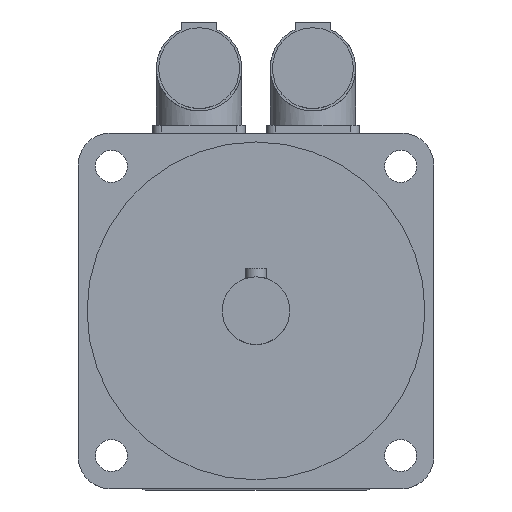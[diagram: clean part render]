
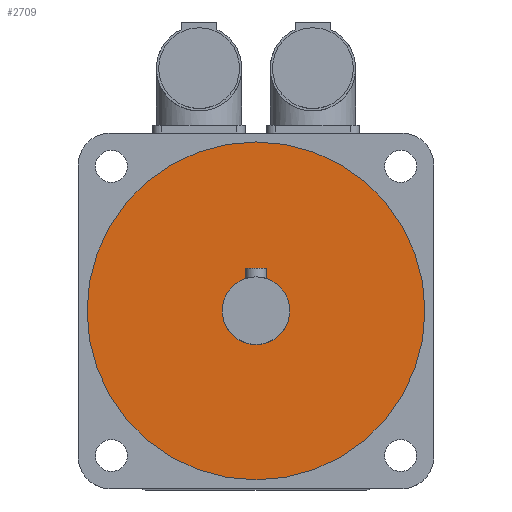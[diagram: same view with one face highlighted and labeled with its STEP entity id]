
A CAD part, top view. The second image highlights one B-rep face of the part: STEP entity #2709.
In plain terms, the highlighted planar face has unit normal (0, 0, 1).
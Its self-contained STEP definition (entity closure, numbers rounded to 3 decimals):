
#44=FACE_BOUND('',#455,.T.);
#72=CIRCLE('',#2874,9.5);
#73=CIRCLE('',#2877,47.5);
#289=FACE_OUTER_BOUND('',#454,.T.);
#454=EDGE_LOOP('',(#1842));
#455=EDGE_LOOP('',(#1843));
#1150=VERTEX_POINT('',#4096);
#1151=VERTEX_POINT('',#4100);
#1420=EDGE_CURVE('',#1150,#1150,#72,.T.);
#1421=EDGE_CURVE('',#1151,#1151,#73,.T.);
#1842=ORIENTED_EDGE('',*,*,#1421,.T.);
#1843=ORIENTED_EDGE('',*,*,#1420,.T.);
#2629=PLANE('',#2879);
#2709=ADVANCED_FACE('',(#289,#44),#2629,.F.);
#2874=AXIS2_PLACEMENT_3D('',#4097,#3197,#3198);
#2877=AXIS2_PLACEMENT_3D('',#4101,#3203,#3204);
#2879=AXIS2_PLACEMENT_3D('',#4104,#3207,#3208);
#3197=DIRECTION('center_axis',(0.,0.,-1.));
#3198=DIRECTION('ref_axis',(-1.,0.,0.));
#3203=DIRECTION('center_axis',(0.,0.,
1.));
#3204=DIRECTION('ref_axis',(-1.,0.,0.));
#3207=DIRECTION('center_axis',(0.,0.,-1.));
#3208=DIRECTION('ref_axis',(-1.,0.,0.));
#4096=CARTESIAN_POINT('',(9.5,0.,182.));
#4097=CARTESIAN_POINT('Origin',(0.,0.,
182.));
#4100=CARTESIAN_POINT('',(47.5,0.,182.));
#4101=CARTESIAN_POINT('Origin',(0.,0.,
182.));
#4104=CARTESIAN_POINT('Origin',(0.,0.,
182.));
